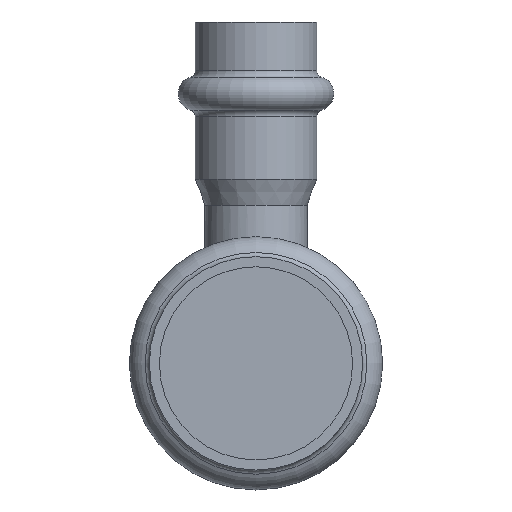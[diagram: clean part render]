
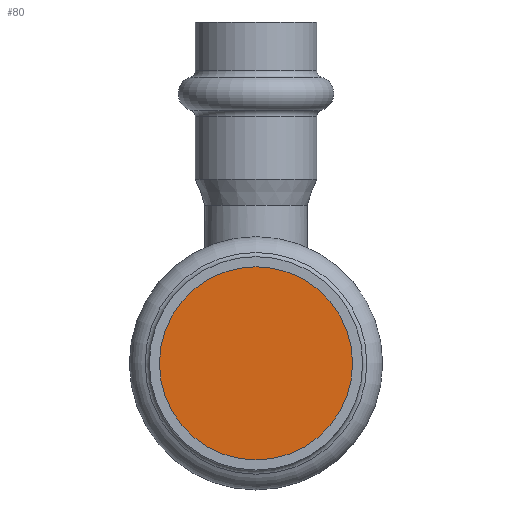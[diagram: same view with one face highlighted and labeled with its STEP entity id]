
A CAD part, front view. The second image highlights one B-rep face of the part: STEP entity #80.
In plain terms, the highlighted planar face has unit normal (0, -1, 0).
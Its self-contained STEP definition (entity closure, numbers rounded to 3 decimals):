
#80=ADVANCED_FACE('',(#325),#327,.T.);
#325=FACE_BOUND('',#326,.T.);
#326=EDGE_LOOP('',(#395));
#327=PLANE('',#328);
#328=AXIS2_PLACEMENT_3D('',#329,#330,#331);
#329=CARTESIAN_POINT('',(0.,-44.219,0.));
#330=DIRECTION('',(0.,-1.,0.));
#331=DIRECTION('',(0.,0.,-1.));
#395=ORIENTED_EDGE('',*,*,#424,.T.);
#424=EDGE_CURVE('',#480,#480,#481,.F.);
#480=VERTEX_POINT('',#811);
#481=CIRCLE('',#812,14.15);
#811=CARTESIAN_POINT('',(0.,-44.219,14.15));
#812=AXIS2_PLACEMENT_3D('',#813,#814,#815);
#813=CARTESIAN_POINT('',(0.,-44.219,0.));
#814=DIRECTION('',(0.,1.,0.));
#815=DIRECTION('',(0.,0.,1.));
